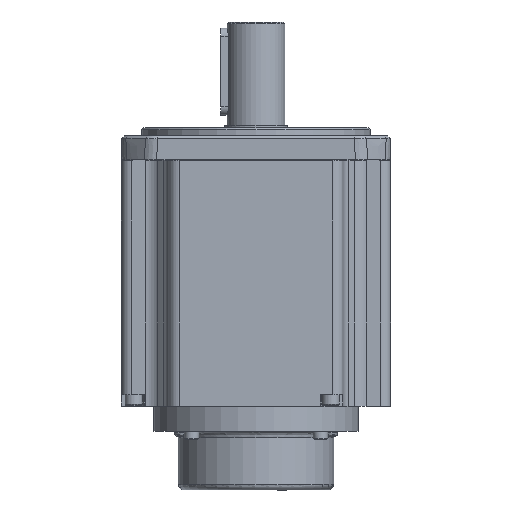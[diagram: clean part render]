
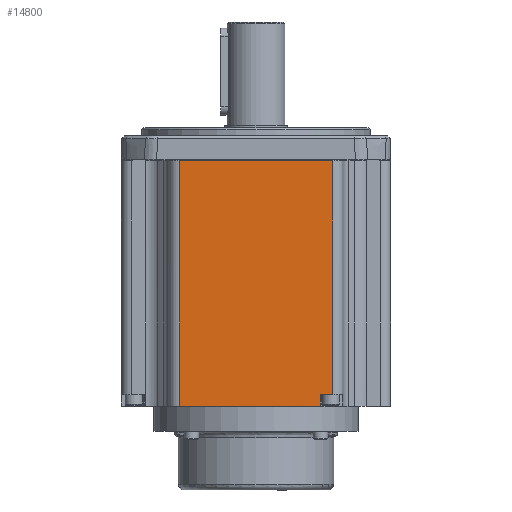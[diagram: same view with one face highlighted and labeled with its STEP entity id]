
A CAD part, front view. The second image highlights one B-rep face of the part: STEP entity #14800.
In plain terms, the highlighted planar face has unit normal (0, -1, 0).
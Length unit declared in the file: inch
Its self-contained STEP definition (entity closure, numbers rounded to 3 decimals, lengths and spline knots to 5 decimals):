
#14745=CARTESIAN_POINT('',(-2.55906,-2.55906,-0.47244));
#14746=DIRECTION('',(0.0,-1.0,0.0));
#14747=DIRECTION('',(0.0,0.0,-1.0));
#14748=AXIS2_PLACEMENT_3D('',#14745,#14746,#14747);
#14749=PLANE('',#14748);
#14750=CARTESIAN_POINT('',(1.45669,-2.55906,-0.47244));
#14751=VERTEX_POINT('',#14750);
#14752=CARTESIAN_POINT('',(1.45669,-2.55906,-4.92126));
#14753=VERTEX_POINT('',#14752);
#14754=CARTESIAN_POINT('',(1.45669,-2.55906,-0.47244));
#14755=DIRECTION('',(0.0,0.0,-1.0));
#14756=VECTOR('',#14755,4.44882);
#14757=LINE('',#14754,#14756);
#14758=EDGE_CURVE('',#14751,#14753,#14757,.T.);
#14759=ORIENTED_EDGE('',*,*,#14758,.F.);
#14760=CARTESIAN_POINT('',(-1.45669,-2.55906,-0.47244));
#14761=VERTEX_POINT('',#14760);
#14762=CARTESIAN_POINT('',(1.45669,-2.55906,-0.47244));
#14763=DIRECTION('',(-1.0,0.0,0.0));
#14764=VECTOR('',#14763,2.91339);
#14765=LINE('',#14762,#14764);
#14766=EDGE_CURVE('',#14751,#14761,#14765,.T.);
#14767=ORIENTED_EDGE('',*,*,#14766,.T.);
#14768=CARTESIAN_POINT('',(-1.45669,-2.55906,-5.1378));
#14769=VERTEX_POINT('',#14768);
#14770=CARTESIAN_POINT('',(-1.45669,-2.55906,-5.1378));
#14771=DIRECTION('',(0.0,0.0,1.0));
#14772=VECTOR('',#14771,4.66535);
#14773=LINE('',#14770,#14772);
#14774=EDGE_CURVE('',#14769,#14761,#14773,.T.);
#14775=ORIENTED_EDGE('',*,*,#14774,.F.);
#14776=CARTESIAN_POINT('',(1.22047,-2.55906,-5.1378));
#14777=VERTEX_POINT('',#14776);
#14778=CARTESIAN_POINT('',(-1.45669,-2.55906,-5.1378));
#14779=DIRECTION('',(1.0,0.0,0.0));
#14780=VECTOR('',#14779,2.67717);
#14781=LINE('',#14778,#14780);
#14782=EDGE_CURVE('',#14769,#14777,#14781,.T.);
#14783=ORIENTED_EDGE('',*,*,#14782,.T.);
#14784=CARTESIAN_POINT('',(1.22047,-2.55906,-4.92126));
#14785=VERTEX_POINT('',#14784);
#14786=CARTESIAN_POINT('',(1.22047,-2.55906,-5.1378));
#14787=DIRECTION('',(0.0,0.0,1.0));
#14788=VECTOR('',#14787,0.21654);
#14789=LINE('',#14786,#14788);
#14790=EDGE_CURVE('',#14777,#14785,#14789,.T.);
#14791=ORIENTED_EDGE('',*,*,#14790,.T.);
#14792=CARTESIAN_POINT('',(1.22047,-2.55906,-4.92126));
#14793=DIRECTION('',(1.0,0.0,0.0));
#14794=VECTOR('',#14793,0.23622);
#14795=LINE('',#14792,#14794);
#14796=EDGE_CURVE('',#14785,#14753,#14795,.T.);
#14797=ORIENTED_EDGE('',*,*,#14796,.T.);
#14798=EDGE_LOOP('',(#14759,#14767,#14775,#14783,#14791,#14797));
#14799=FACE_OUTER_BOUND('',#14798,.T.);
#14800=ADVANCED_FACE('',(#14799),#14749,.T.);
